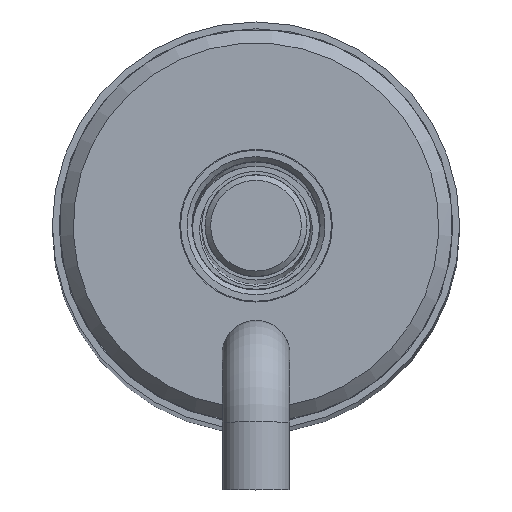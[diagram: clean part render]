
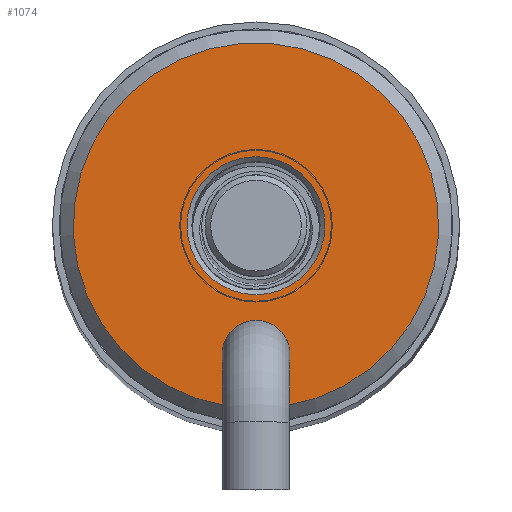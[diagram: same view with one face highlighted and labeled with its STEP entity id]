
A CAD part, top view. The second image highlights one B-rep face of the part: STEP entity #1074.
In plain terms, the highlighted planar face has unit normal (0, 0, 1).
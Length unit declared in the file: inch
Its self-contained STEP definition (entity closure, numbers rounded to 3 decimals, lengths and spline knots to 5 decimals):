
#78=FACE_BOUND('',#214,.T.);
#116=PLANE('',#1254);
#145=FACE_OUTER_BOUND('',#213,.T.);
#213=EDGE_LOOP('',(#719,#720,#721,#722,#723));
#214=EDGE_LOOP('',(#724));
#294=LINE('',#1700,#344);
#297=LINE('',#1710,#347);
#344=VECTOR('',#1401,0.3937);
#347=VECTOR('',#1406,0.3937);
#396=CIRCLE('',#1249,0.0625);
#398=CIRCLE('',#1251,0.0625);
#399=CIRCLE('',#1255,0.3365);
#400=CIRCLE('',#1256,0.127);
#448=VERTEX_POINT('',#1686);
#449=VERTEX_POINT('',#1688);
#452=VERTEX_POINT('',#1694);
#453=VERTEX_POINT('',#1699);
#456=VERTEX_POINT('',#1709);
#457=VERTEX_POINT('',#1712);
#550=EDGE_CURVE('',#449,#448,#396,.T.);
#554=EDGE_CURVE('',#448,#452,#398,.T.);
#555=EDGE_CURVE('',#453,#449,#294,.T.);
#559=EDGE_CURVE('',#452,#456,#297,.T.);
#560=EDGE_CURVE('',#453,#456,#399,.T.);
#561=EDGE_CURVE('',#457,#457,#400,.T.);
#719=ORIENTED_EDGE('',*,*,#550,.T.);
#720=ORIENTED_EDGE('',*,*,#554,.T.);
#721=ORIENTED_EDGE('',*,*,#559,.T.);
#722=ORIENTED_EDGE('',*,*,#560,.F.);
#723=ORIENTED_EDGE('',*,*,#555,.T.);
#724=ORIENTED_EDGE('',*,*,#561,.T.);
#1074=ADVANCED_FACE('',(#145,#78),#116,.T.);
#1249=AXIS2_PLACEMENT_3D('',#1689,#1389,#1390);
#1251=AXIS2_PLACEMENT_3D('',#1696,#1395,#1396);
#1254=AXIS2_PLACEMENT_3D('',#1708,#1404,#1405);
#1255=AXIS2_PLACEMENT_3D('',#1711,#1407,#1408);
#1256=AXIS2_PLACEMENT_3D('',#1713,#1409,#1410);
#1389=DIRECTION('center_axis',(0.,0.,
-1.));
#1390=DIRECTION('ref_axis',(1.,0.,0.));
#1395=DIRECTION('center_axis',(0.,0.,
-1.));
#1396=DIRECTION('ref_axis',(1.,0.,0.));
#1401=DIRECTION('',(0.,1.,0.));
#1404=DIRECTION('center_axis',(0.,0.,
1.));
#1405=DIRECTION('ref_axis',(1.,0.,0.));
#1406=DIRECTION('',(0.,-1.,0.));
#1407=DIRECTION('center_axis',(0.,0.,
-1.));
#1408=DIRECTION('ref_axis',(-1.,0.,0.));
#1409=DIRECTION('center_axis',(0.,0.,
-1.));
#1410=DIRECTION('ref_axis',(-1.,0.,0.));
#1686=CARTESIAN_POINT('',(-0.0625,-0.237,4.37));
#1688=CARTESIAN_POINT('',(-0.053,-0.27012,4.37));
#1689=CARTESIAN_POINT('Origin',(0.,-0.237,4.37));
#1694=CARTESIAN_POINT('',(0.053,-0.27012,4.37));
#1696=CARTESIAN_POINT('Origin',(0.,-0.237,4.37));
#1699=CARTESIAN_POINT('',(-0.053,-0.3323,4.37));
#1700=CARTESIAN_POINT('',(-0.053,0.04975,4.37));
#1708=CARTESIAN_POINT('Origin',(0.,0.3365,4.37));
#1709=CARTESIAN_POINT('',(0.053,-0.3323,4.37));
#1710=CARTESIAN_POINT('',(0.053,-0.01055,4.37));
#1711=CARTESIAN_POINT('Origin',(0.,0.,
4.37));
#1712=CARTESIAN_POINT('',(0.,-0.127,4.37));
#1713=CARTESIAN_POINT('Origin',(0.,0.,
4.37));
